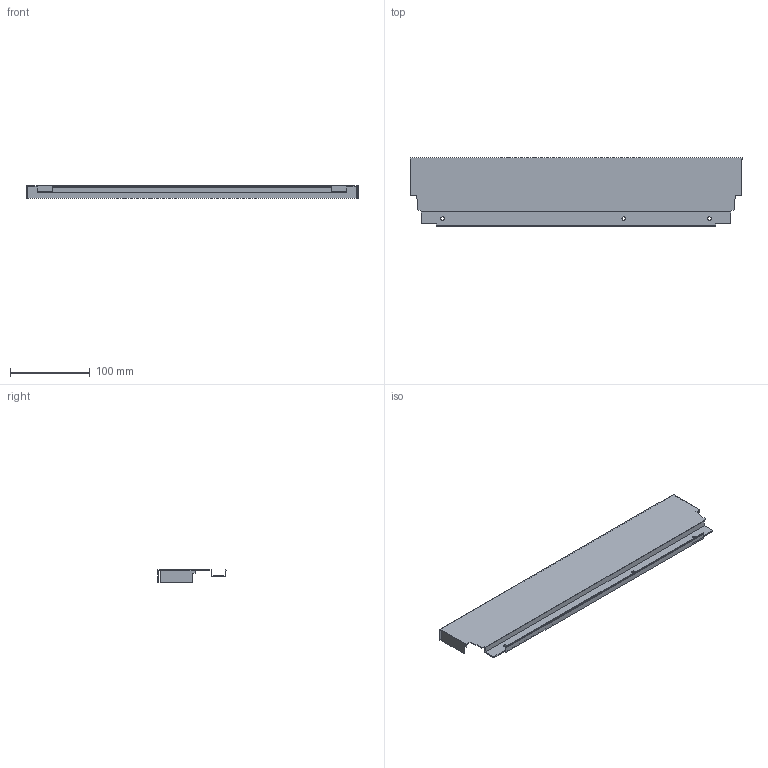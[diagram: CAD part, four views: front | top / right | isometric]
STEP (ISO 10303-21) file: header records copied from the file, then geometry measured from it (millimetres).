
FILE_DESCRIPTION (( 'STEP AP214' ), '1' );
FILE_NAME ('_DWD_XP Stahlrückwand_H86_KAB500_S17.step', '2010-07-08T12:10:07', ( 'grass' ), ( '' ), 'SwSTEP 2.0', 'SolidWorks 2010', '' );
FILE_SCHEMA (( 'AUTOMOTIVE_DESIGN' ));
Length unit declared in the file: millimetre
Products named in the file (1): _DWD_XP Stahlrückwand_H86_KAB500_S17
Bounding box: 417 x 85.79 x 16 mm (x, y, z)
Volume: 44181.3 mm3; surface area: 96604.9 mm2
Topology: 1 solids, 1 shells, 50 faces, 144 edges, 96 vertices
Faces by surface type: plane 44, cylinder 6
Entity records: 1666 total; most frequent: CARTESIAN_POINT 291, ORIENTED_EDGE 288, DIRECTION 258, EDGE_CURVE 144, VECTOR 132, LINE 132, VERTEX_POINT 96, AXIS2_PLACEMENT_3D 63
